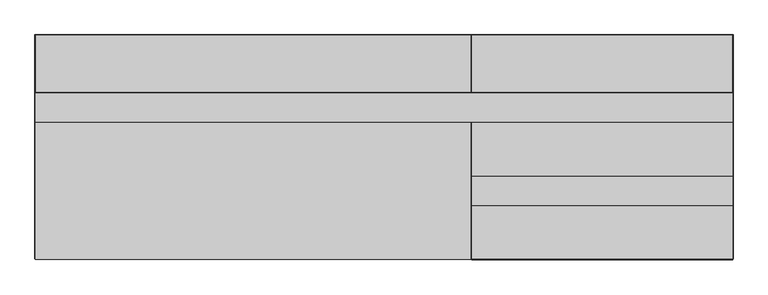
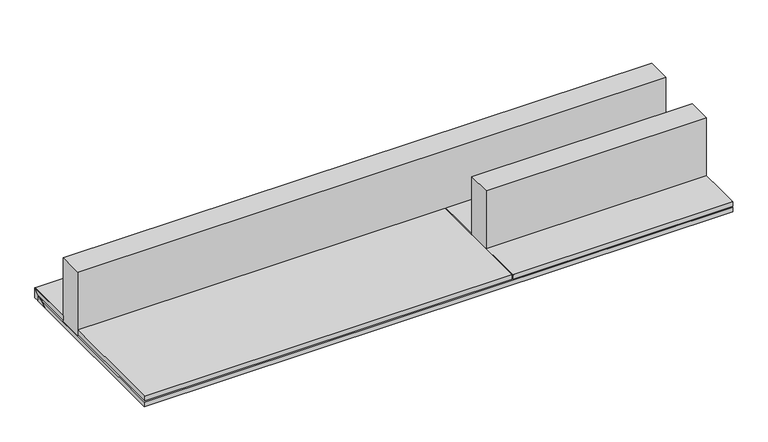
"""IFC4 building model written with IfcOpenShell, lengths in millimetres: proxy geometry, CCN^APOGEE_L1 WALL HUNG-ASSEMBLY."""

from ifc_helpers import new_model, si_unit, frame, origin, origin_with_axes, place, context, project, spatial, polyline, outline, extrude, source, transform, mapped, element, save


def generic_models_66903318(model_context):
    return source(origin(), model_context, "Body", "SweptSolid", [
        extrude(outline(polyline([(-458.4192, 1295.4), (-458.4192, 1276.35), (-1370.3808, 1276.35), (-1370.3808, 1295.4), (-458.4192, 1295.4)])), origin_with_axes(), (0.0, 0.0, 1.0), 1.2192),
        extrude(outline(polyline([(1295.4, 44.45), (1295.4, 1.2192), (1276.35, 1.2192), (1276.35, 25.4), (1295.4, 44.45)])), frame((-458.4192, 0.0, 0.0), z_axis=(1.0, 0.0, 0.0), x_axis=(0.0, 1.0, 0.0)), (0.0, 0.0, 1.0), 1.2192),
        extrude(outline(polyline([(1295.4, 44.45), (1295.4, 1.2192), (1276.35, 1.2192), (1276.35, 25.4), (1295.4, 44.45)])), frame((-1370.3808, 0.0, 0.0), z_axis=(1.0, 0.0, 0.0), x_axis=(0.0, 1.0, 0.0)), (0.0, 0.0, 1.0), 911.9616),
        extrude(outline(polyline([(1295.4, 44.45), (1295.4, 1.2192), (1276.35, 1.2192), (1276.35, 25.4), (1295.4, 44.45)])), frame((-1371.6, 0.0, 0.0), z_axis=(1.0, 0.0, 0.0), x_axis=(0.0, 1.0, 0.0)), (0.0, 0.0, 1.0), 1.2192),
        extrude(outline(polyline([(-1370.3808, 1093.4192), (-458.4192, 1093.4192), (-458.4192, 1092.2), (-1370.3808, 1092.2), (-1370.3808, 1093.4192)])), frame((0.0, 0.0, 25.4), z_axis=(0.0, 0.0, 1.0), x_axis=(1.0, 0.0, 0.0)), (0.0, 0.0, 1.0), 19.05),
        extrude(outline(polyline([(1093.4192, 44.45), (1295.4, 44.45), (1276.35, 25.4), (1093.4192, 25.4), (1093.4192, 44.45)])), frame((-458.4192, 0.0, 0.0), z_axis=(1.0, 0.0, 0.0), x_axis=(0.0, 1.0, 0.0)), (0.0, 0.0, 1.0), 1.2192),
        extrude(outline(polyline([(1093.4192, 44.45), (1295.4, 44.45), (1276.35, 25.4), (1093.4192, 25.4), (1093.4192, 44.45)])), frame((-1370.3808, 0.0, 0.0), z_axis=(1.0, 0.0, 0.0), x_axis=(0.0, 1.0, 0.0)), (0.0, 0.0, 1.0), 911.9616),
        extrude(outline(polyline([(1093.4192, 44.45), (1295.4, 44.45), (1276.35, 25.4), (1093.4192, 25.4), (1093.4192, 44.45)])), frame((-1371.6, 0.0, 0.0), z_axis=(1.0, 0.0, 0.0), x_axis=(0.0, 1.0, 0.0)), (0.0, 0.0, 1.0), 1.2192),
        extrude(outline(polyline([(-457.99375, 698.5029212), (-1370.80625, 698.5029212), (-1370.80625, 800.1), (-457.99375, 800.1), (-457.99375, 698.5029212)])), frame((0.0, 0.0, 19.05), z_axis=(0.0, 0.0, 1.0), x_axis=(1.0, 0.0, 0.0)), (0.0, 0.0, 1.0), 279.4),
        extrude(outline(polyline([(1225.55, 0.0), (1244.6, 19.05), (1276.35, 19.05), (1276.35, 0.0), (1225.55, 0.0)])), frame((-1371.6, 0.0, 0.0), z_axis=(1.0, 0.0, 0.0), x_axis=(0.0, 1.0, 0.0)), (0.0, 0.0, 1.0), 914.4),
        extrude(outline(polyline([(-2894.3808, 1093.4192), (-1372.8192, 1093.4192), (-1372.8192, 1092.2), (-2894.3808, 1092.2), (-2894.3808, 1093.4192)])), frame((0.0, 0.0, 25.4), z_axis=(0.0, 0.0, 1.0), x_axis=(1.0, 0.0, 0.0)), (0.0, 0.0, 1.0), 19.05),
        extrude(outline(polyline([(1093.4192, 44.45), (1295.4, 44.45), (1276.35, 25.4), (1093.4192, 25.4), (1093.4192, 44.45)])), frame((-2895.6, 0.0, 0.0), z_axis=(1.0, 0.0, 0.0), x_axis=(0.0, 1.0, 0.0)), (0.0, 0.0, 1.0), 1.2192),
        extrude(outline(polyline([(1093.4192, 44.45), (1295.4, 44.45), (1276.35, 25.4), (1093.4192, 25.4), (1093.4192, 44.45)])), frame((-2894.3808, 0.0, 0.0), z_axis=(1.0, 0.0, 0.0), x_axis=(0.0, 1.0, 0.0)), (0.0, 0.0, 1.0), 1521.5616),
        extrude(outline(polyline([(1093.4192, 44.45), (1295.4, 44.45), (1276.35, 25.4), (1093.4192, 25.4), (1093.4192, 44.45)])), frame((-1372.8192, 0.0, 0.0), z_axis=(1.0, 0.0, 0.0), x_axis=(0.0, 1.0, 0.0)), (0.0, 0.0, 1.0), 1.2192),
        extrude(outline(polyline([(-1370.3808, 510.01295), (-458.4192, 510.01295), (-458.4192, 508.79375), (-1370.3808, 508.79375), (-1370.3808, 510.01295)])), frame((0.0, 0.0, 25.4), z_axis=(0.0, 0.0, 1.0), x_axis=(1.0, 0.0, 0.0)), (0.0, 0.0, 1.0), 19.05),
        extrude(outline(polyline([(-458.4192, 800.496875), (-1370.3808, 800.496875), (-1370.3808, 1085.42455), (-458.4192, 1085.42455), (-458.4192, 800.496875)])), frame((0.0, 0.0, 25.4), z_axis=(0.0, 0.0, 1.0), x_axis=(1.0, 0.0, 0.0)), (0.0, 0.0, 1.0), 19.05),
        extrude(outline(polyline([(-1370.3808, 794.940625), (-458.4192, 794.940625), (-458.4192, 510.01295), (-1370.3808, 510.01295), (-1370.3808, 794.940625)])), frame((0.0, 0.0, 25.4), z_axis=(0.0, 0.0, 1.0), x_axis=(1.0, 0.0, 0.0)), (0.0, 0.0, 1.0), 19.05),
        extrude(outline(polyline([(-2894.0125, 1085.05625), (-1373.1875, 1085.05625), (-1373.1875, 509.5875), (-2894.0125, 509.5875), (-2894.0125, 1085.05625)])), frame((0.0, 0.0, 25.4), z_axis=(0.0, 0.0, 1.0), x_axis=(1.0, 0.0, 0.0)), (0.0, 0.0, 1.0), 19.05),
        extrude(outline(polyline([(-1372.8192, 1295.4), (-1372.8192, 1276.35), (-2894.3808, 1276.35), (-2894.3808, 1295.4), (-1372.8192, 1295.4)])), origin_with_axes(), (0.0, 0.0, 1.0), 1.2192),
        extrude(outline(polyline([(1295.4, 44.45), (1295.4, 1.2192), (1276.35, 1.2192), (1276.35, 25.4), (1295.4, 44.45)])), frame((-2895.6, 0.0, 0.0), z_axis=(1.0, 0.0, 0.0), x_axis=(0.0, 1.0, 0.0)), (0.0, 0.0, 1.0), 1.2192),
        extrude(outline(polyline([(1295.4, 44.45), (1295.4, 1.2192), (1276.35, 1.2192), (1276.35, 25.4), (1295.4, 44.45)])), frame((-2894.3808, 0.0, 0.0), z_axis=(1.0, 0.0, 0.0), x_axis=(0.0, 1.0, 0.0)), (0.0, 0.0, 1.0), 1521.5616),
        extrude(outline(polyline([(1295.4, 44.45), (1295.4, 1.2192), (1276.35, 1.2192), (1276.35, 25.4), (1295.4, 44.45)])), frame((-1372.8192, 0.0, 0.0), z_axis=(1.0, 0.0, 0.0), x_axis=(0.0, 1.0, 0.0)), (0.0, 0.0, 1.0), 1.2192),
        extrude(outline(polyline([(-457.99375, 990.2060462), (-2894.80625, 990.2060462), (-2894.80625, 1091.803125), (-457.99375, 1091.803125), (-457.99375, 990.2060462)])), frame((0.0, 0.0, 19.05), z_axis=(0.0, 0.0, 1.0), x_axis=(1.0, 0.0, 0.0)), (0.0, 0.0, 1.0), 279.4),
        extrude(outline(polyline([(1225.55, 0.0), (1244.6, 19.05), (1276.35, 19.05), (1276.35, 0.0), (1225.55, 0.0)])), frame((-2895.6, 0.0, 0.0), z_axis=(1.0, 0.0, 0.0), x_axis=(0.0, 1.0, 0.0)), (0.0, 0.0, 1.0), 1524.0),
        extrude(outline(polyline([(1244.6, 19.05), (1225.55, 0.0), (511.175, 0.0), (511.175, 19.05), (1244.6, 19.05)])), frame((-2895.6, 0.0, 0.0), z_axis=(1.0, 0.0, 0.0), x_axis=(0.0, 1.0, 0.0)), (0.0, 0.0, 1.0), 2438.4),
        extrude(outline(polyline([(-1371.6, 1276.35), (-1371.6, 1244.6), (-2895.6, 1244.6), (-2895.6, 1276.35), (-1371.6, 1276.35)])), frame((0.0, 0.0, 19.05), z_axis=(0.0, 0.0, 1.0), x_axis=(1.0, 0.0, 0.0)), (0.0, 0.0, 1.0), 6.35),
    ])


if __name__ == "__main__":
    model = new_model("IFC4")
    model_context = context("Model", 3, world=origin())
    ifc_project = project(units=[si_unit("LENGTHUNIT", "METRE", prefix="MILLI")], contexts=[model_context])
    site = spatial("IfcSite", under=ifc_project)
    building = spatial("IfcBuilding", under=site)
    placement = place(None, origin())
    generic_models_shape = generic_models_66903318(model_context)
    element("IfcBuildingElementProxy", 1, Name="CCN^APOGEE_L1 WALL HUNG-ASSEMBLY", ObjectType="CCN^APOGEE_L1 WALL HUNG-ASSEMBLY", at=placement, inside=building, context=model_context, shape_type="MappedRepresentation", body=[
        mapped(generic_models_shape, transform((0.0, 0.0, 0.0), x_axis=(1.0, 0.0, 0.0), y_axis=(0.0, 1.0, 0.0), z_axis=(0.0, 0.0, 1.0))),
    ])
    save(model, "model.ifc")
